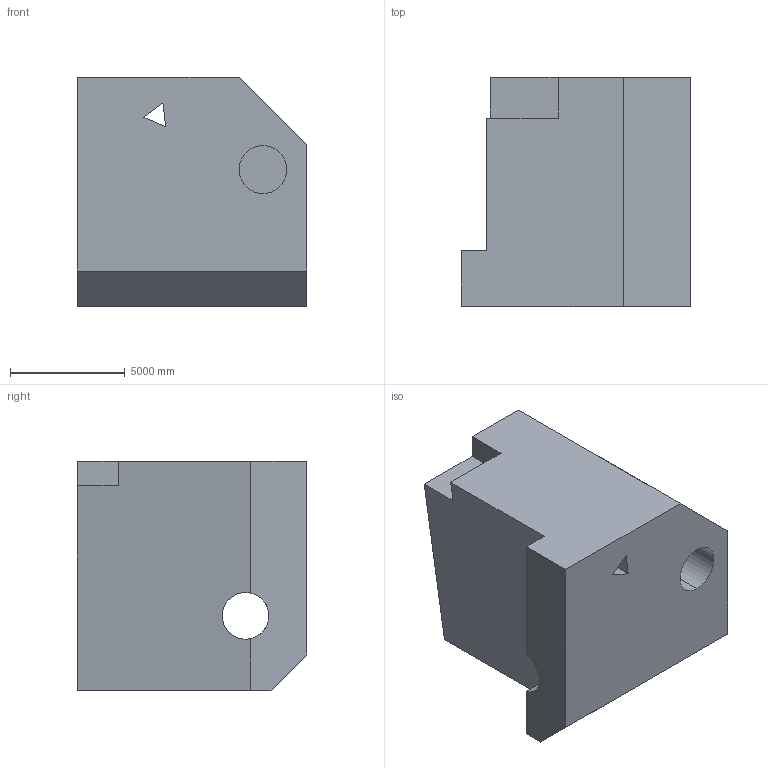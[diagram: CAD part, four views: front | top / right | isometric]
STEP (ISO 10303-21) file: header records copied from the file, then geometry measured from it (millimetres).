
FILE_DESCRIPTION (( 'STEP AP203' ), '1' );
FILE_NAME ('125.STEP', '2022-08-31T11:44:36', ( 'user' ), ( '' ), 'SwSTEP 2.0', 'SolidWorks 2021', '' );
FILE_SCHEMA (( 'CONFIG_CONTROL_DESIGN' ));
Length unit declared in the file: centimetre
Products named in the file (1): 125
Bounding box: 10000 x 10000 x 10000 mm (x, y, z)
Volume: 746204996951.2 mm3; surface area: 656200349.9 mm2
Topology: 1 solids, 1 shells, 22 faces, 60 edges, 40 vertices
Faces by surface type: plane 18, cylinder 4
Entity records: 776 total; most frequent: CARTESIAN_POINT 132, ORIENTED_EDGE 120, DIRECTION 110, EDGE_CURVE 60, LINE 50, VECTOR 50, VERTEX_POINT 40, AXIS2_PLACEMENT_3D 30
